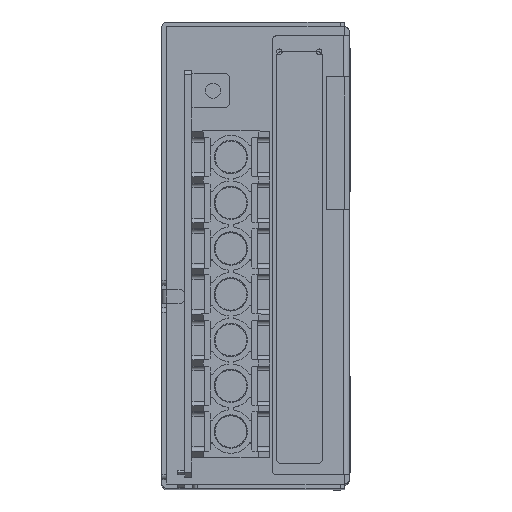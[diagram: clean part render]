
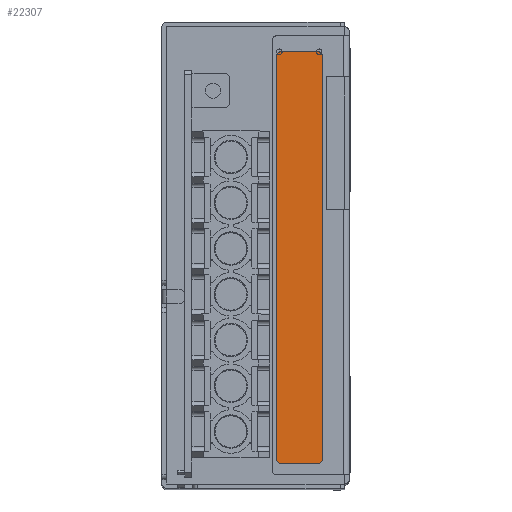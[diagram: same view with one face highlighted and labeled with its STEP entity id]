
A CAD part, top view. The second image highlights one B-rep face of the part: STEP entity #22307.
In plain terms, the highlighted planar face has unit normal (0, 0, 1).
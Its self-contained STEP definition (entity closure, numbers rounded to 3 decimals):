
#473 = LINE ( 'NONE', #56143, #55067 ) ;
#894 = LINE ( 'NONE', #56582, #55997 ) ;
#2784 = DIRECTION ( 'NONE',  ( -1., 0., 0. ) ) ;
#4660 = DIRECTION ( 'NONE',  ( 0., 0., -1. ) ) ;
#8154 = VERTEX_POINT ( 'NONE', #43288 ) ;
#9221 = DIRECTION ( 'NONE',  ( 0., 0., -1. ) ) ;
#9639 = DIRECTION ( 'NONE',  ( -1., 0., 0. ) ) ;
#9964 = DIRECTION ( 'NONE',  ( -1., 0., 0. ) ) ;
#10013 = VERTEX_POINT ( 'NONE', #26863 ) ;
#11113 = CARTESIAN_POINT ( 'NONE',  ( 26.1, 94.5, 0.2 ) ) ;
#13617 = ORIENTED_EDGE ( 'NONE', *, *, #23424, .T. ) ;
#15783 = VERTEX_POINT ( 'NONE', #18309 ) ;
#16063 = DIRECTION ( 'NONE',  ( 0., 0., -1. ) ) ;
#16376 = CARTESIAN_POINT ( 'NONE',  ( 25.1, 95.5, 0.2 ) ) ;
#16947 = VERTEX_POINT ( 'NONE', #39761 ) ;
#17534 = VECTOR ( 'NONE', #44795, 1000. ) ;
#18309 = CARTESIAN_POINT ( 'NONE',  ( 25.1, 94.5, 0.2 ) ) ;
#20691 = ORIENTED_EDGE ( 'NONE', *, *, #26291, .T. ) ;
#20802 = ORIENTED_EDGE ( 'NONE', *, *, #22116, .F. ) ;
#21202 = ORIENTED_EDGE ( 'NONE', *, *, #29625, .F. ) ;
#22116 = EDGE_CURVE ( 'NONE', #8154, #56632, #47569, .T. ) ;
#22307 = ADVANCED_FACE ( 'NONE', ( #31844 ), #57958, .F. ) ;
#22525 = CARTESIAN_POINT ( 'NONE',  ( 34.1, 6.5, 0.2 ) ) ;
#22854 = LINE ( 'NONE', #16376, #35206 ) ;
#22926 = ORIENTED_EDGE ( 'NONE', *, *, #33910, .T. ) ;
#23222 = AXIS2_PLACEMENT_3D ( 'NONE', #34843, #9221, #2784 ) ;
#23424 = EDGE_CURVE ( 'NONE', #15783, #56632, #894, .T. ) ;
#23987 = CARTESIAN_POINT ( 'NONE',  ( 26.1, 95.5, 0.2 ) ) ;
#26291 = EDGE_CURVE ( 'NONE', #8154, #40915, #473, .T. ) ;
#26863 = CARTESIAN_POINT ( 'NONE',  ( 35.1, 94.5, 0.2 ) ) ;
#27393 = EDGE_CURVE ( 'NONE', #35111, #10013, #45642, .T. ) ;
#27807 = ORIENTED_EDGE ( 'NONE', *, *, #27393, .F. ) ;
#29625 = EDGE_CURVE ( 'NONE', #16947, #40915, #61627, .T. ) ;
#29663 = ORIENTED_EDGE ( 'NONE', *, *, #33920, .T. ) ;
#30212 = ORIENTED_EDGE ( 'NONE', *, *, #46109, .F. ) ;
#30810 = VERTEX_POINT ( 'NONE', #23987 ) ;
#31844 = FACE_OUTER_BOUND ( 'NONE', #51294, .T. ) ;
#32243 = AXIS2_PLACEMENT_3D ( 'NONE', #51701, #45461, #39199 ) ;
#33910 = EDGE_CURVE ( 'NONE', #16947, #10013, #57285, .T. ) ;
#33920 = EDGE_CURVE ( 'NONE', #35111, #30810, #22854, .T. ) ;
#34843 = CARTESIAN_POINT ( 'NONE',  ( 34.1, 94.5, 0.2 ) ) ;
#35111 = VERTEX_POINT ( 'NONE', #51633 ) ;
#35206 = VECTOR ( 'NONE', #9964, 1000. ) ;
#38848 = AXIS2_PLACEMENT_3D ( 'NONE', #11113, #4660, #60247 ) ;
#39199 = DIRECTION ( 'NONE',  ( -1., 0., 0. ) ) ;
#39761 = CARTESIAN_POINT ( 'NONE',  ( 35.1, 6.5, 0.2 ) ) ;
#40870 = CARTESIAN_POINT ( 'NONE',  ( 34.1, 5.5, 0.2 ) ) ;
#40915 = VERTEX_POINT ( 'NONE', #40870 ) ;
#43288 = CARTESIAN_POINT ( 'NONE',  ( 26.1, 5.5, 0.2 ) ) ;
#43302 = AXIS2_PLACEMENT_3D ( 'NONE', #60480, #54190, #47988 ) ;
#44795 = DIRECTION ( 'NONE',  ( 0., 1., 0. ) ) ;
#45461 = DIRECTION ( 'NONE',  ( 0., 0., -1. ) ) ;
#45642 = CIRCLE ( 'NONE', #23222, 1. ) ;
#46109 = EDGE_CURVE ( 'NONE', #15783, #30810, #55625, .T. ) ;
#47569 = CIRCLE ( 'NONE', #43302, 1. ) ;
#47988 = DIRECTION ( 'NONE',  ( -1., 0., 0. ) ) ;
#49879 = DIRECTION ( 'NONE',  ( 1., 0., 0. ) ) ;
#50311 = DIRECTION ( 'NONE',  ( 0., -1., 0. ) ) ;
#51026 = CARTESIAN_POINT ( 'NONE',  ( 35.1, 95.5, 0.2 ) ) ;
#51294 = EDGE_LOOP ( 'NONE', ( #13617, #20802, #20691, #21202, #22926, #27807, #29663, #30212 ) ) ;
#51633 = CARTESIAN_POINT ( 'NONE',  ( 34.1, 95.5, 0.2 ) ) ;
#51701 = CARTESIAN_POINT ( 'NONE',  ( 35.1, 95.5, 0.2 ) ) ;
#53317 = AXIS2_PLACEMENT_3D ( 'NONE', #22525, #16063, #9639 ) ;
#54190 = DIRECTION ( 'NONE',  ( 0., 0., -1. ) ) ;
#55067 = VECTOR ( 'NONE', #49879, 1000. ) ;
#55625 = CIRCLE ( 'NONE', #38848, 1. ) ;
#55997 = VECTOR ( 'NONE', #50311, 1000. ) ;
#56143 = CARTESIAN_POINT ( 'NONE',  ( 25.1, 5.5, 0.2 ) ) ;
#56582 = CARTESIAN_POINT ( 'NONE',  ( 25.1, 95.5, 0.2 ) ) ;
#56632 = VERTEX_POINT ( 'NONE', #61493 ) ;
#57285 = LINE ( 'NONE', #51026, #17534 ) ;
#57958 = PLANE ( 'NONE',  #32243 ) ;
#60247 = DIRECTION ( 'NONE',  ( -1., 0., 0. ) ) ;
#60480 = CARTESIAN_POINT ( 'NONE',  ( 26.1, 6.5, 0.2 ) ) ;
#61493 = CARTESIAN_POINT ( 'NONE',  ( 25.1, 6.5, 0.2 ) ) ;
#61627 = CIRCLE ( 'NONE', #53317, 1. ) ;
